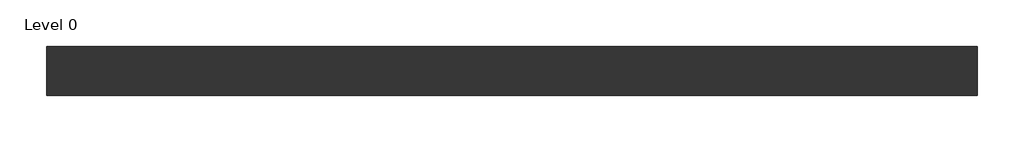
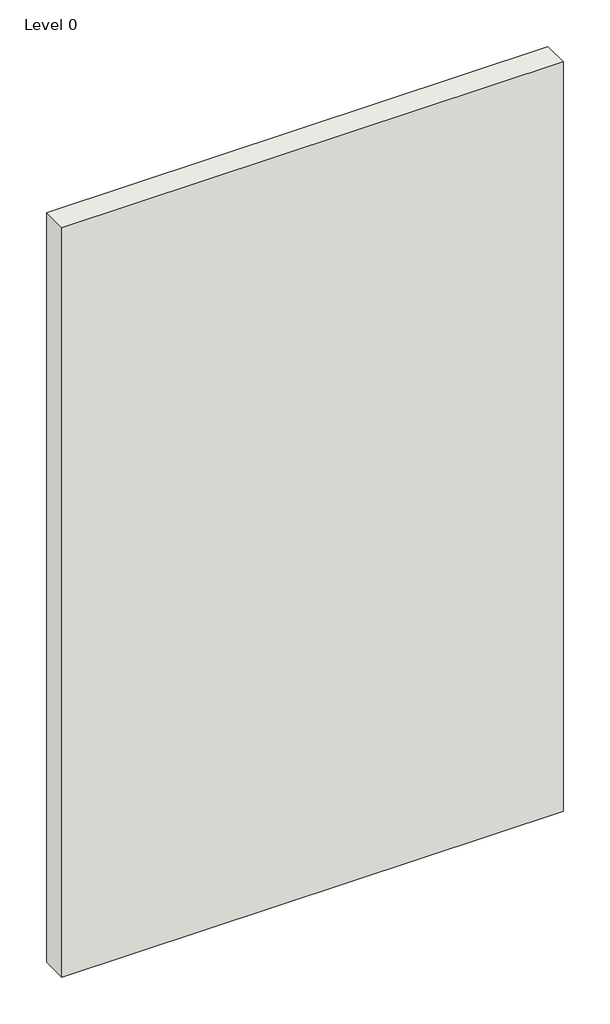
# One storey: 1 wall.
"""IFC4 building model written with IfcOpenShell, lengths in millimetres."""

from ifc_helpers import new_model, si_unit, origin, origin_with_axes, place, context, project, spatial, polyline, outline, extrude, element, save

model = new_model("IFC4")

# Units and contexts
model_context = context("Model", 3, world=origin())
ifc_project = project(units=[si_unit("LENGTHUNIT", "METRE", prefix="MILLI")], contexts=[model_context])

# Site, building, storey
site = spatial("IfcSite", under=ifc_project)
building = spatial("IfcBuilding", under=site)
storey = spatial("IfcBuildingStorey", under=building, Name="Level 0", Elevation=0.0)

# Wall
placement = place(None, origin())
element("IfcWall", 1, ObjectType="G1061018 - Gyproc FireWall", at=placement, inside=storey, context=model_context, shape_type="SweptSolid", body=[
    extrude(outline(polyline([(1155.997948, 473.2669953), (-1944.002052, 473.2669953), (-1944.002052, 637.2669953), (1155.997948, 637.2669953), (1155.997948, 473.2669953)])), origin_with_axes(), (0.0, 0.0, 1.0), 4900.0),
])

save(model, "model.ifc")
